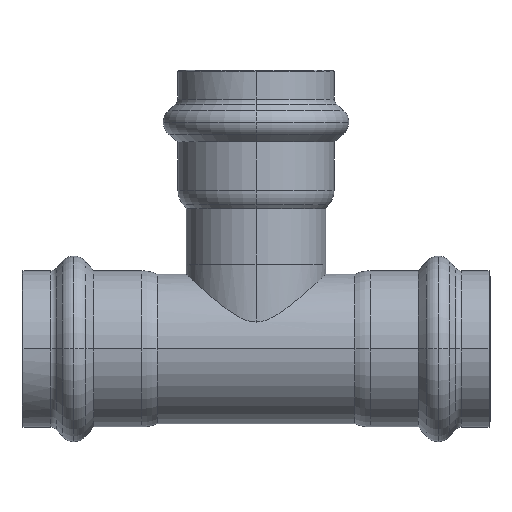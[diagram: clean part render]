
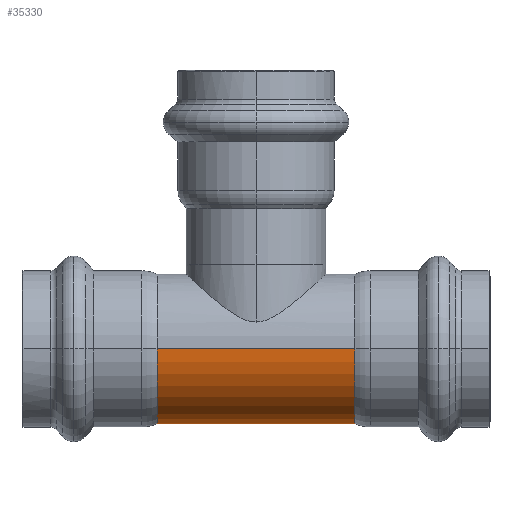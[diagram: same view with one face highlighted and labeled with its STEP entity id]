
A CAD part, left-side view. The second image highlights one B-rep face of the part: STEP entity #35330.
In plain terms, the highlighted cylindrical face has radius 15 mm (diameter 30 mm), a partial arc.
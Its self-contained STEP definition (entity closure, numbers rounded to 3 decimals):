
#130=CARTESIAN_POINT('',(46.006,60.838,0.));
#140=VERTEX_POINT('',#130);
#310=CARTESIAN_POINT('',(16.006,60.838,0.));
#320=VERTEX_POINT('',#310);
#350=CARTESIAN_POINT('',(31.006,60.838,0.));
#360=DIRECTION('',(0.,1.,0.));
#370=DIRECTION('',(-1.,0.,0.));
#380=AXIS2_PLACEMENT_3D('',#350,#360,#370);
#390=CIRCLE('',#380,15.);
#400=EDGE_CURVE('',#140,#320,#390,.T.);
#600=CARTESIAN_POINT('',(31.006,41.038,0.));
#610=DIRECTION('',(0.,1.,0.));
#620=DIRECTION('',(1.,0.,0.));
#630=AXIS2_PLACEMENT_3D('',#600,#610,#620);
#640=CYLINDRICAL_SURFACE('',#630,15.);
#4600=CARTESIAN_POINT('',(46.006,21.238,0.));
#4610=VERTEX_POINT('',#4600);
#4660=CARTESIAN_POINT('',(31.006,21.238,0.));
#4670=DIRECTION('',(0.,1.,0.));
#4680=DIRECTION('',(-1.,0.,0.));
#4690=AXIS2_PLACEMENT_3D('',#4660,#4670,#4680);
#4700=CIRCLE('',#4690,15.);
#4710=CARTESIAN_POINT('',(16.006,21.238,0.));
#4720=VERTEX_POINT('',#4710);
#4730=EDGE_CURVE('',#4610,#4720,#4700,.T.);
#35170=CARTESIAN_POINT('',(46.006,41.038,0.));
#35180=DIRECTION('',(0.,1.,0.));
#35190=VECTOR('',#35180,1.);
#35200=LINE('',#35170,#35190);
#35210=EDGE_CURVE('',#4610,#140,#35200,.T.);
#35220=ORIENTED_EDGE('',*,*,#35210,.F.);
#35230=ORIENTED_EDGE('',*,*,#400,.F.);
#35240=CARTESIAN_POINT('',(16.006,41.038,
0.));
#35250=DIRECTION('',(0.,1.,0.));
#35260=VECTOR('',#35250,1.);
#35270=LINE('',#35240,#35260);
#35280=EDGE_CURVE('',#4720,#320,#35270,.T.);
#35290=ORIENTED_EDGE('',*,*,#35280,.T.);
#35300=ORIENTED_EDGE('',*,*,#4730,.T.);
#35310=EDGE_LOOP('',(#35300,#35290,#35230,#35220));
#35320=FACE_OUTER_BOUND('',#35310,.T.);
#35330=ADVANCED_FACE('',(#35320),#640,.T.);
